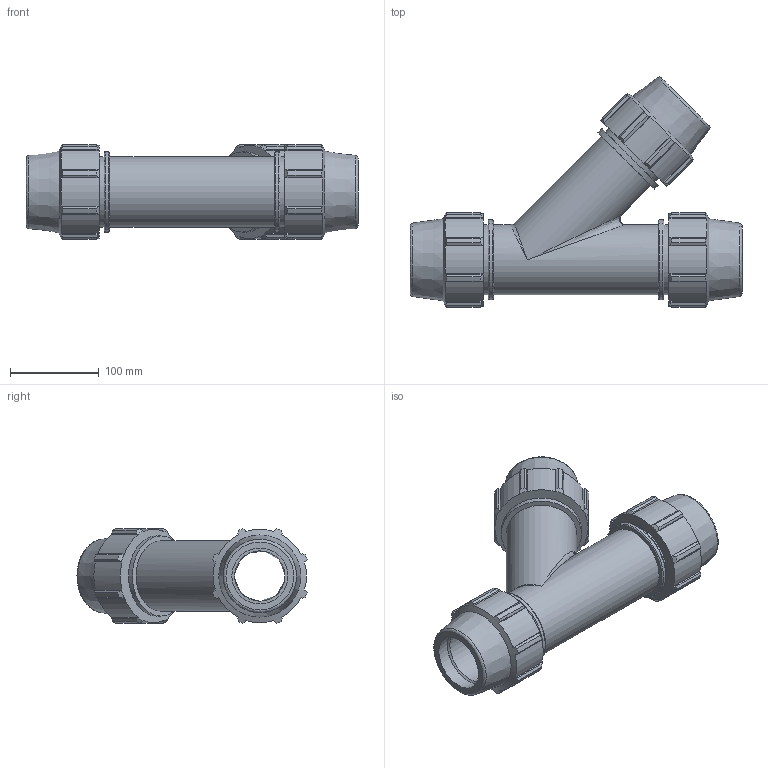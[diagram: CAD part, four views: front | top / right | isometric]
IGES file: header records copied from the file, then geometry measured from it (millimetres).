
Global section: file name: 076400063_186400063_0764060630A.ipt; native system: Autodesk Inventor 2015; preprocessor: unknown; author: Кирилл,,11,0; organization: 20170224.180708; date: 20170606.172405; units: millimetre
Bounding box: 374 x 259.14 x 106.32 mm (x, y, z)
Volume: 1818724.9 mm3; surface area: 299867.4 mm2
Topology: 1 solids, 1 shells, 219 faces, 627 edges, 421 vertices
Faces by surface type: plane 114, cylinder 56, cone 30, revolution 17, bspline 2
Full cylindrical faces by diameter (mm): 79.1 x5, 90.4 x3
